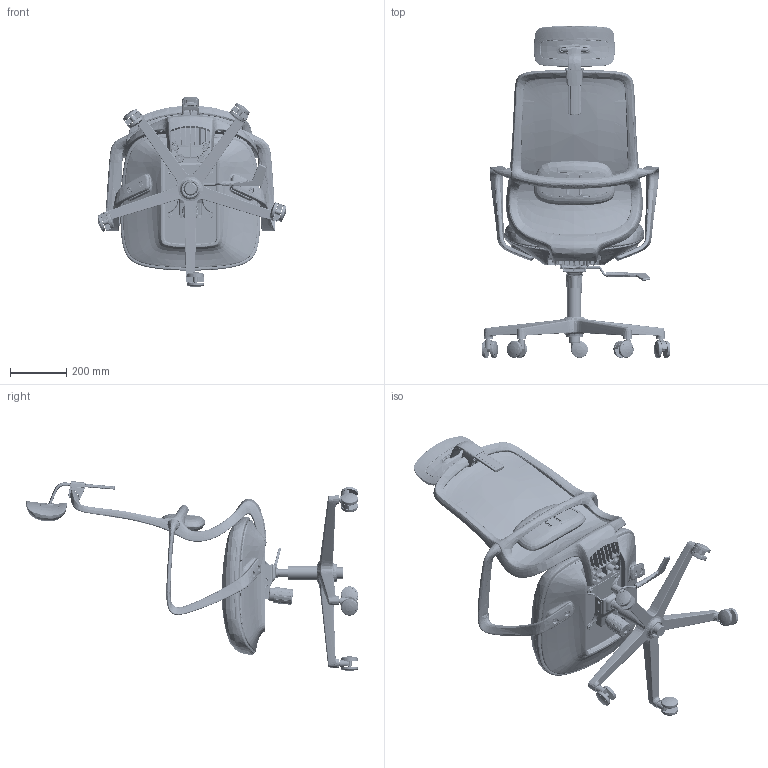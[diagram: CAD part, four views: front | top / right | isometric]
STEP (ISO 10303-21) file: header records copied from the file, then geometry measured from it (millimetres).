
FILE_DESCRIPTION((''),'2;1');
FILE_NAME('00_D273_ALL_ASM','2025-01-17T',('Administrator'),(''),'PRO/ENGINEER BY PARAMETRIC TECHNOLOGY CORPORATION, 2010020','PRO/ENGINEER BY PARAMETRIC TECHNOLOGY CORPORATION, 2010020','');
FILE_SCHEMA(('CONFIG_CONTROL_DESIGN'));
Length unit declared in the file: millimetre
Products named in the file (41): D273_BACK_A3; D273_BACK_B1; D273_BACK_WB; D273_BACK_C1; F002-B_1_; F002-A_1_; F002-E_1_; F002-C_1_; F002-D_1_; F002-G_1_; 4-D-01_035_1_; F002-F-01_1_; MECHANISM_HANDLE_A_1_; F002_1__ASM; D273_SEAT_A; D273_SEAT_PM-1; D273_SEAT_ALL_ASM; PRT0004; D273_LUMBAR_A1; D273_LUMBAR_PM; D262_LUMBAR_E1; N21001_BACK_ALL_ASM; D273_LUMBAR_ALL_ASM; D265_BASE_340; CASTER_PU_60_25_B; PNEUMATIC_BAR100_30; PRT0041; D265_BASE_340_ASM; D273_ARMREST_A; PRT0045; S1; D273_PILLOW_A1_1; 273_PILLOW_B1_1; D268_PILLOW_K_1; D273_PILLOW_A1_ASM_1_ASM; D265_PILLOW_A_1; D265_PILLOW_PM_1; D265_PILLOW_L_2023-07-06_1; D265_PILLOW_A_ASM_1_ASM; D273_PILLOW_ALL_250110_ASM_1_ASM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
Assembly tree (55 placements, depth 4):
  00_D273_ALL_ASM
    D273_BACK_A3
    D273_BACK_B1
    D273_BACK_WB
    D273_BACK_C1
    F002_1__ASM
      F002-B_1_
      F002-A_1_
      F002-E_1_
      F002-C_1_
      F002-D_1_
      F002-G_1_
      4-D-01_035_1_
      F002-F-01_1_
      MECHANISM_HANDLE_A_1_
    D273_SEAT_ALL_ASM
      D273_SEAT_A
      D273_SEAT_PM-1
    D273_LUMBAR_ALL_ASM
      PRT0004
      D273_LUMBAR_A1
      D273_LUMBAR_PM
      N21001_BACK_ALL_ASM
        D262_LUMBAR_E1
    D265_BASE_340_ASM
      D265_BASE_340
      CASTER_PU_60_25_B  x5
      PNEUMATIC_BAR100_30
      PRT0041
    D273_ARMREST_A
    PRT0045
    S1  x12
    D273_PILLOW_ALL_250110_ASM_1_ASM
      D273_PILLOW_A1_ASM_1_ASM
        D273_PILLOW_A1_1
        273_PILLOW_B1_1
        D268_PILLOW_K_1
      D265_PILLOW_A_ASM_1_ASM
        D265_PILLOW_A_1
        D265_PILLOW_PM_1
        D265_PILLOW_L_2023-07-06_1
Bounding box: 674.36 x 1184.03 x 678.87 mm (x, y, z)
Volume: 29723684.7 mm3; surface area: 3231203.4 mm2
Topology: 53 solids, 54 shells, 6713 faces, 16522 edges, 10004 vertices
Faces by surface type: bspline 3843, cylinder 1068, plane 895, torus 436, cone 173, sphere 152, extrusion 142, revolution 4
Entity records: 400497 total; most frequent: CARTESIAN_POINT 290962, ORIENTED_EDGE 24102, DIRECTION 12205, EDGE_CURVE 12051, VERTEX_POINT 7241, B_SPLINE_CURVE_WITH_KNOTS 7150, EDGE_LOOP 5180, FACE_OUTER_BOUND 4969
